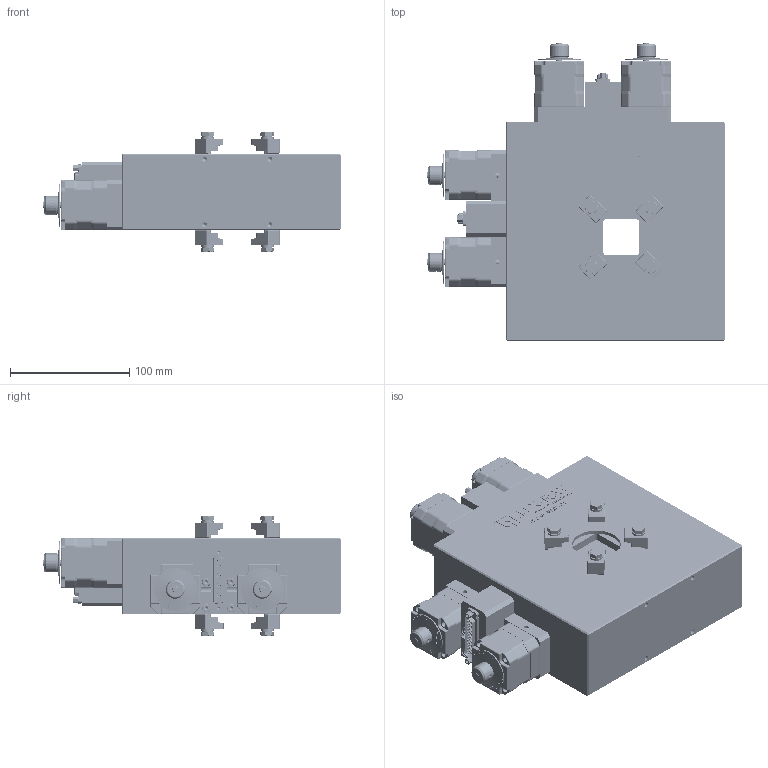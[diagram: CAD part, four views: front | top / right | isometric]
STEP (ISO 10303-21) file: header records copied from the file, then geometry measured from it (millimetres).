
FILE_DESCRIPTION((''),'2;1');
FILE_NAME('C:\WF\Designs\Slitter\0701 AT30 slit vacuum\JJ X-Ray hjemmeside\AT-C30-HV Slit.stp','2012-10-03T11:35:05',('Henning'),(''),'Autodesk Inventor 2013','Autodesk Inventor 2013','');
FILE_SCHEMA(('AUTOMOTIVE_DESIGN { 1 0 10303 214 1 1 1 1 }'));
Length unit declared in the file: millimetre
Products named in the file (18): 070100a1; 070113a1; 070113b1; 070108a2; Vexta stepmotor 42mm [Title [Summary]=PK244-0][midterextr=17 mm]; Dsub 25 Pin, 2 Row, Male; D-Connector screw; skalaknap; skalaknap del3; skalaknap del2; skalaknap del1; ISO 4762  (Normal gevind) M4 x 35; KF Claw grip PF 104000-T; KF Claw grip; ISO 4017  (Normal gevind) M6 x 20; ISO 7092 ST 6 - 140 HV
Assembly tree (53 placements, depth 3):
  070100a1
    070113a1
    070113b1
    070108a2  x2
    Vexta stepmotor 42mm [Title [Summary]=PK244-0][midterextr=17 mm]  x4
    Dsub 25 Pin, 2 Row, Male
    Dsub 25 Pin, 2 Row, Male
    D-Connector screw  x4
    skalaknap  x4
      skalaknap del3
      skalaknap
      skalaknap del2
      skalaknap del1
    ISO 4762  (Normal gevind) M4 x 35  x20
    KF Claw grip PF 104000-T  x8
      KF Claw grip
      ISO 4017  (Normal gevind) M6 x 20
      ISO 7092 ST 6 - 140 HV
Bounding box: 250 x 250 x 100.4 mm (x, y, z)
Volume: 1400393.6 mm3; surface area: 380038.7 mm2
Topology: 74 solids, 74 shells, 7920 faces, 20842 edges, 13508 vertices
Faces by surface type: plane 4155, bspline 1867, cylinder 1220, cone 404, sphere 146, torus 128
Full cylindrical faces by diameter (mm): 0.991 x50, 1.567 x4, 2.156 x4, 2.459 x40, 2.487 x4, 2.82 x4, 3.048 x4, 3.242 x20, 3.5 x8, 3.8 x4, 4 x24, 4.134 x8, 4.5 x36, 4.917 x8, 5 x24, 5.5 x8, 6 x8, 6.4 x8, 6.5 x4, 7 x28, 7.5 x12, 7.9 x8, 8.88 x8, 10 x2, 11 x8, 15 x4, 16 x6, 16.1 x4, 20 x4, 22 x8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
Entity records: 113722 total; most frequent: CARTESIAN_POINT 35003, ORIENTED_EDGE 17246, DIRECTION 12937, EDGE_CURVE 8623, VERTEX_POINT 5785, VECTOR 5149, LINE 5149, EDGE_LOOP 4228
